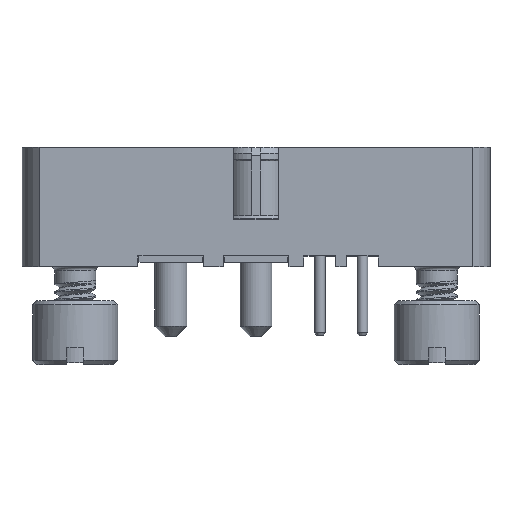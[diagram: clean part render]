
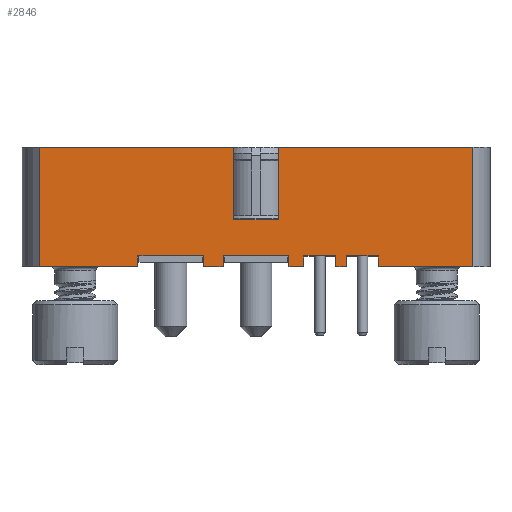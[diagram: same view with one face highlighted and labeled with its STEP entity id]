
A CAD part, top view. The second image highlights one B-rep face of the part: STEP entity #2846.
In plain terms, the highlighted planar face has unit normal (0, 0, 1).
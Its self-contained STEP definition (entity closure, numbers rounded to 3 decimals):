
#129=DIRECTION('',(-1.,0.,0.));
#130=VECTOR('',#129,9.15);
#131=CARTESIAN_POINT('',(10.2,3.4,2.775));
#132=LINE('',#131,#130);
#150=DIRECTION('',(-1.,0.,0.));
#151=VECTOR('',#150,9.15);
#152=CARTESIAN_POINT('',(-1.05,3.4,2.775));
#153=LINE('',#152,#151);
#523=DIRECTION('',(-1.,0.,0.));
#524=VECTOR('',#523,4.65);
#525=CARTESIAN_POINT('',(-5.55,-2.2,2.775));
#526=LINE('',#525,#524);
#551=DIRECTION('',(-1.,0.,0.));
#552=VECTOR('',#551,0.9);
#553=CARTESIAN_POINT('',(-1.55,-2.2,2.775));
#554=LINE('',#553,#552);
#579=DIRECTION('',(-1.,0.,0.));
#580=VECTOR('',#579,0.7);
#581=CARTESIAN_POINT('',(2.25,-2.2,2.775));
#582=LINE('',#581,#580);
#586=DIRECTION('',(-1.,0.,0.));
#587=VECTOR('',#586,4.45);
#588=CARTESIAN_POINT('',(10.2,-2.2,2.775));
#589=LINE('',#588,#587);
#657=DIRECTION('',(-1.,0.,0.));
#658=VECTOR('',#657,0.5);
#659=CARTESIAN_POINT('',(4.25,-2.2,2.775));
#660=LINE('',#659,#658);
#895=DIRECTION('',(0.,1.,0.));
#896=VECTOR('',#895,0.5);
#897=CARTESIAN_POINT('',(5.75,-2.2,2.775));
#898=LINE('',#897,#896);
#902=DIRECTION('',(-1.,0.,0.));
#903=VECTOR('',#902,1.5);
#904=CARTESIAN_POINT('',(5.75,-1.7,2.775));
#905=LINE('',#904,#903);
#909=DIRECTION('',(0.,1.,0.));
#910=VECTOR('',#909,0.5);
#911=CARTESIAN_POINT('',(4.25,-2.2,2.775));
#912=LINE('',#911,#910);
#916=DIRECTION('',(0.,1.,0.));
#917=VECTOR('',#916,0.5);
#918=CARTESIAN_POINT('',(3.75,-2.2,2.775));
#919=LINE('',#918,#917);
#923=DIRECTION('',(-1.,0.,0.));
#924=VECTOR('',#923,1.5);
#925=CARTESIAN_POINT('',(3.75,-1.7,2.775));
#926=LINE('',#925,#924);
#930=DIRECTION('',(0.,1.,0.));
#931=VECTOR('',#930,0.5);
#932=CARTESIAN_POINT('',(2.25,-2.2,2.775));
#933=LINE('',#932,#931);
#937=DIRECTION('',(0.,1.,0.));
#938=VECTOR('',#937,0.5);
#939=CARTESIAN_POINT('',(1.55,-2.2,2.775));
#940=LINE('',#939,#938);
#944=DIRECTION('',(-1.,0.,0.));
#945=VECTOR('',#944,3.1);
#946=CARTESIAN_POINT('',(1.55,-1.7,2.775));
#947=LINE('',#946,#945);
#951=DIRECTION('',(0.,1.,0.));
#952=VECTOR('',#951,0.5);
#953=CARTESIAN_POINT('',(-1.55,-2.2,2.775));
#954=LINE('',#953,#952);
#958=DIRECTION('',(0.,1.,0.));
#959=VECTOR('',#958,0.5);
#960=CARTESIAN_POINT('',(-2.45,-2.2,2.775));
#961=LINE('',#960,#959);
#965=DIRECTION('',(-1.,0.,0.));
#966=VECTOR('',#965,3.1);
#967=CARTESIAN_POINT('',(-2.45,-1.7,2.775));
#968=LINE('',#967,#966);
#972=DIRECTION('',(0.,1.,0.));
#973=VECTOR('',#972,0.5);
#974=CARTESIAN_POINT('',(-5.55,-2.2,2.775));
#975=LINE('',#974,#973);
#979=DIRECTION('',(0.,-1.,0.));
#980=VECTOR('',#979,3.4);
#981=CARTESIAN_POINT('',(-1.05,3.4,2.775));
#982=LINE('',#981,#980);
#986=DIRECTION('',(-1.,0.,0.));
#987=VECTOR('',#986,2.1);
#988=CARTESIAN_POINT('',(1.05,0.,2.775));
#989=LINE('',#988,#987);
#993=DIRECTION('',(0.,-1.,0.));
#994=VECTOR('',#993,3.4);
#995=CARTESIAN_POINT('',(1.05,3.4,2.775));
#996=LINE('',#995,#994);
#1000=DIRECTION('',(0.,-1.,0.));
#1001=VECTOR('',#1000,5.6);
#1002=CARTESIAN_POINT('',(10.2,3.4,2.775));
#1003=LINE('',#1002,#1001);
#1189=DIRECTION('',(0.,-1.,0.));
#1190=VECTOR('',#1189,5.6);
#1191=CARTESIAN_POINT('',(-10.2,3.4,2.775));
#1192=LINE('',#1191,#1190);
#1856=CARTESIAN_POINT('',(1.05,0.,2.775));
#1857=CARTESIAN_POINT('',(-1.05,0.,2.775));
#1858=VERTEX_POINT('',#1856);
#1859=VERTEX_POINT('',#1857);
#1860=CARTESIAN_POINT('',(-1.05,3.4,2.775));
#1861=VERTEX_POINT('',#1860);
#1862=CARTESIAN_POINT('',(1.05,3.4,2.775));
#1863=VERTEX_POINT('',#1862);
#1864=CARTESIAN_POINT('',(10.2,3.4,2.775));
#1865=VERTEX_POINT('',#1864);
#1866=CARTESIAN_POINT('',(-10.2,3.4,2.775));
#1867=VERTEX_POINT('',#1866);
#1908=CARTESIAN_POINT('',(3.75,-2.2,2.775));
#1910=VERTEX_POINT('',#1908);
#1912=CARTESIAN_POINT('',(2.25,-2.2,2.775));
#1914=VERTEX_POINT('',#1912);
#1916=CARTESIAN_POINT('',(3.75,-1.7,2.775));
#1917=VERTEX_POINT('',#1916);
#1918=CARTESIAN_POINT('',(2.25,-1.7,2.775));
#1919=VERTEX_POINT('',#1918);
#1942=CARTESIAN_POINT('',(10.2,-2.2,2.775));
#1943=VERTEX_POINT('',#1942);
#1944=CARTESIAN_POINT('',(-10.2,-2.2,2.775));
#1946=VERTEX_POINT('',#1944);
#2036=CARTESIAN_POINT('',(-5.55,-2.2,2.775));
#2038=VERTEX_POINT('',#2036);
#2040=CARTESIAN_POINT('',(-2.45,-2.2,2.775));
#2042=VERTEX_POINT('',#2040);
#2044=CARTESIAN_POINT('',(-5.55,-1.7,2.775));
#2045=VERTEX_POINT('',#2044);
#2046=CARTESIAN_POINT('',(-2.45,-1.7,2.775));
#2047=VERTEX_POINT('',#2046);
#2090=CARTESIAN_POINT('',(-1.55,-2.2,2.775));
#2092=VERTEX_POINT('',#2090);
#2094=CARTESIAN_POINT('',(1.55,-2.2,2.775));
#2096=VERTEX_POINT('',#2094);
#2098=CARTESIAN_POINT('',(-1.55,-1.7,2.775));
#2099=VERTEX_POINT('',#2098);
#2100=CARTESIAN_POINT('',(1.55,-1.7,2.775));
#2101=VERTEX_POINT('',#2100);
#2142=CARTESIAN_POINT('',(4.25,-2.2,2.775));
#2144=VERTEX_POINT('',#2142);
#2146=CARTESIAN_POINT('',(5.75,-2.2,2.775));
#2147=CARTESIAN_POINT('',(5.75,-1.7,2.775));
#2148=VERTEX_POINT('',#2146);
#2149=VERTEX_POINT('',#2147);
#2150=CARTESIAN_POINT('',(4.25,-1.7,2.775));
#2151=VERTEX_POINT('',#2150);
#2799=CARTESIAN_POINT('',(10.2,3.4,2.775));
#2800=DIRECTION('',(0.,0.,1.));
#2801=DIRECTION('',(-1.,0.,0.));
#2802=AXIS2_PLACEMENT_3D('',#2799,#2800,#2801);
#2803=PLANE('',#2802);
#2805=ORIENTED_EDGE('',*,*,#2804,.T.);
#2807=ORIENTED_EDGE('',*,*,#2806,.T.);
#2809=ORIENTED_EDGE('',*,*,#2808,.F.);
#2810=ORIENTED_EDGE('',*,*,#2575,.T.);
#2812=ORIENTED_EDGE('',*,*,#2811,.T.);
#2814=ORIENTED_EDGE('',*,*,#2813,.T.);
#2816=ORIENTED_EDGE('',*,*,#2815,.F.);
#2817=ORIENTED_EDGE('',*,*,#2525,.T.);
#2819=ORIENTED_EDGE('',*,*,#2818,.T.);
#2821=ORIENTED_EDGE('',*,*,#2820,.T.);
#2823=ORIENTED_EDGE('',*,*,#2822,.F.);
#2824=ORIENTED_EDGE('',*,*,#2509,.T.);
#2826=ORIENTED_EDGE('',*,*,#2825,.T.);
#2828=ORIENTED_EDGE('',*,*,#2827,.T.);
#2829=ORIENTED_EDGE('',*,*,#2790,.F.);
#2830=ORIENTED_EDGE('',*,*,#2475,.T.);
#2832=ORIENTED_EDGE('',*,*,#2831,.F.);
#2833=ORIENTED_EDGE('',*,*,#2217,.F.);
#2835=ORIENTED_EDGE('',*,*,#2834,.T.);
#2837=ORIENTED_EDGE('',*,*,#2836,.F.);
#2839=ORIENTED_EDGE('',*,*,#2838,.F.);
#2840=ORIENTED_EDGE('',*,*,#2201,.F.);
#2842=ORIENTED_EDGE('',*,*,#2841,.T.);
#2843=ORIENTED_EDGE('',*,*,#2537,.T.);
#2844=EDGE_LOOP('',(#2805,#2807,#2809,#2810,#2812,#2814,#2816,#2817,#2819,#2821,
#2823,#2824,#2826,#2828,#2829,#2830,#2832,#2833,#2835,#2837,#2839,#2840,#2842,
#2843));
#2845=FACE_OUTER_BOUND('',#2844,.F.);
#2846=ADVANCED_FACE('',(#2845),#2803,.T.);
#2201=EDGE_CURVE('',#1865,#1863,#132,.T.);
#2217=EDGE_CURVE('',#1861,#1867,#153,.T.);
#2475=EDGE_CURVE('',#2038,#1946,#526,.T.);
#2509=EDGE_CURVE('',#2092,#2042,#554,.T.);
#2525=EDGE_CURVE('',#1914,#2096,#582,.T.);
#2537=EDGE_CURVE('',#1943,#2148,#589,.T.);
#2575=EDGE_CURVE('',#2144,#1910,#660,.T.);
#2790=EDGE_CURVE('',#2038,#2045,#975,.T.);
#2804=EDGE_CURVE('',#2148,#2149,#898,.T.);
#2806=EDGE_CURVE('',#2149,#2151,#905,.T.);
#2808=EDGE_CURVE('',#2144,#2151,#912,.T.);
#2811=EDGE_CURVE('',#1910,#1917,#919,.T.);
#2813=EDGE_CURVE('',#1917,#1919,#926,.T.);
#2815=EDGE_CURVE('',#1914,#1919,#933,.T.);
#2818=EDGE_CURVE('',#2096,#2101,#940,.T.);
#2820=EDGE_CURVE('',#2101,#2099,#947,.T.);
#2822=EDGE_CURVE('',#2092,#2099,#954,.T.);
#2825=EDGE_CURVE('',#2042,#2047,#961,.T.);
#2827=EDGE_CURVE('',#2047,#2045,#968,.T.);
#2831=EDGE_CURVE('',#1867,#1946,#1192,.T.);
#2834=EDGE_CURVE('',#1861,#1859,#982,.T.);
#2836=EDGE_CURVE('',#1858,#1859,#989,.T.);
#2838=EDGE_CURVE('',#1863,#1858,#996,.T.);
#2841=EDGE_CURVE('',#1865,#1943,#1003,.T.);
